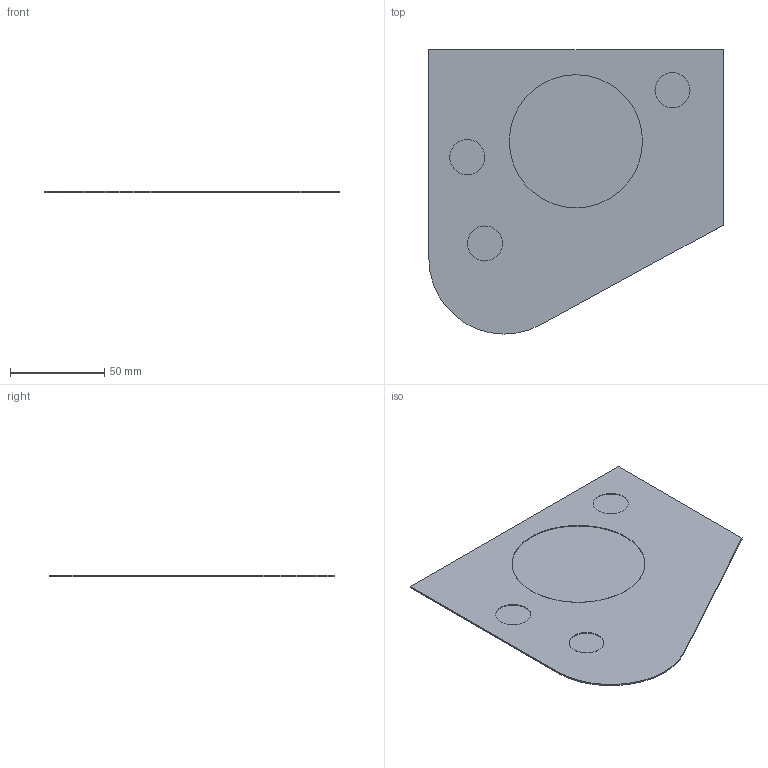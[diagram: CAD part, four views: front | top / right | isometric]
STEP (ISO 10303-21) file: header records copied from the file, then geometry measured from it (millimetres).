
FILE_DESCRIPTION(('STEP AP203'), '1');
FILE_NAME('ìàñêà äåêè ïåðåä 3', '', ('UNSPECIFIED'), ('UNSPECIFIED'), 'ASCON STEP Converter 1.3', 'ASCON Math Kernel', '');
FILE_SCHEMA(('CONFIG_CONTROL_DESIGN'));
Length unit declared in the file: millimetre
Bounding box: 155.98 x 150.61 x 0.8 mm (x, y, z)
Volume: 14178.1 mm3; surface area: 40776.1 mm2
Topology: 1 solids, 1 shells, 15 faces, 27 edges, 18 vertices
Faces by surface type: plane 10, cylinder 5
Full cylindrical faces by diameter (mm): 18.6 x3, 70.6 x1
Entity records: 515 total; most frequent: DIRECTION 65, CARTESIAN_POINT 57, ORIENTED_EDGE 46, AXIS2_PLACEMENT_3D 26, EDGE_LOOP 23, EDGE_CURVE 23, VERTEX_POINT 18, COLOUR_RGB 16
